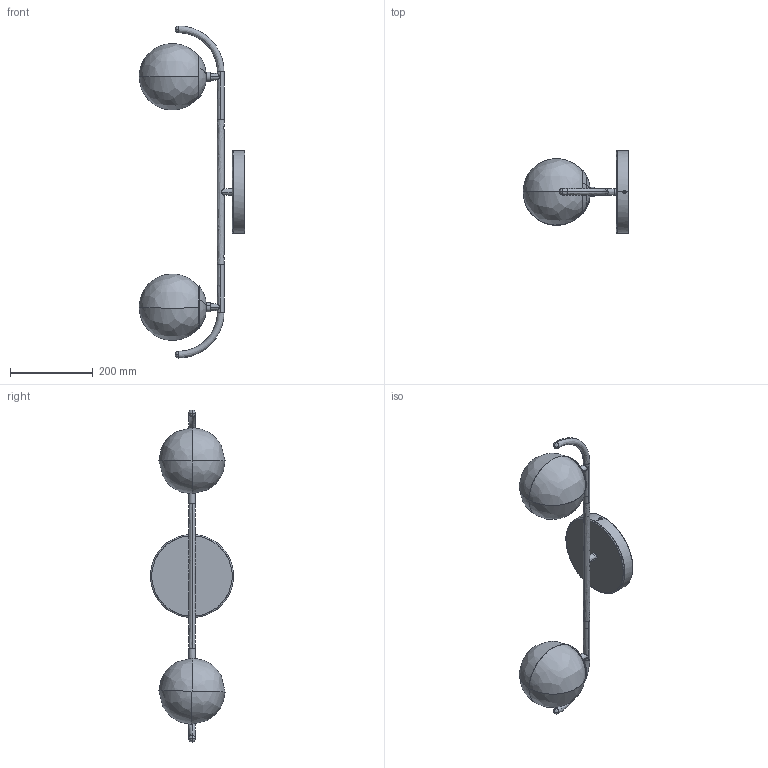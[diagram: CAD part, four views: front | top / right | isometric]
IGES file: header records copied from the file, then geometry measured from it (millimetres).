
Start section: Comment
Global section: file name: Applique.igs; native system:  By UGS Corp.; preprocessor: XPlus GENERIC/IGES 3.0; author: Author; organization: Title; date: 20240509.094540; units: inch
Bounding box: 254.5 x 199.68 x 801 mm (x, y, z)
Surface area: 574245.6 mm2 (no closed solid volume)
Topology: 0 solids, 0 shells, 500 faces, 2326 edges, 2294 vertices
Faces by surface type: bspline 500
